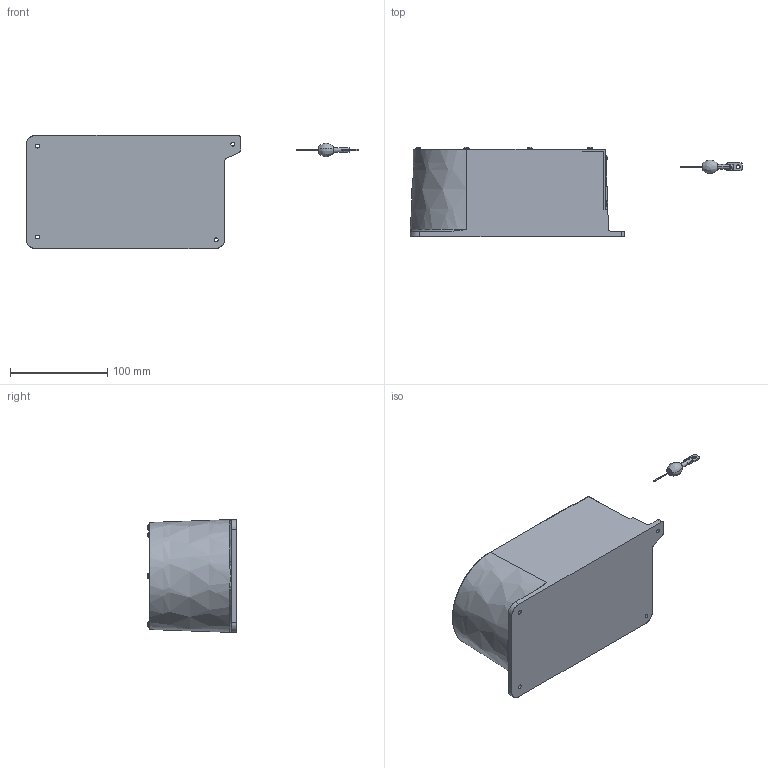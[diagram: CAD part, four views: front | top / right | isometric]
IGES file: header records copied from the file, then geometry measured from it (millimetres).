
Start section: SolidWorks IGES file using analytic representation for surfaces
Bounding box: 341.57 x 92 x 116.5 mm (x, y, z)
Surface area: 108146.3 mm2 (no closed solid volume)
Topology: 0 solids, 0 shells, 368 faces, 5395 edges, 5393 vertices
Faces by surface type: bspline 234, revolution 134
